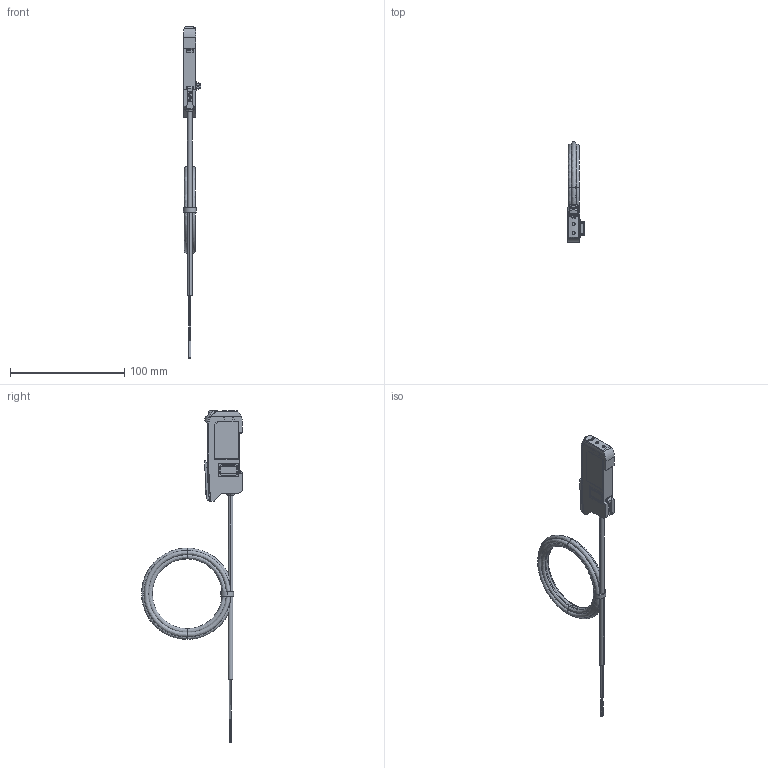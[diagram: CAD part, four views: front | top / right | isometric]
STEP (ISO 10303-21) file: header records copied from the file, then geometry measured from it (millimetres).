
FILE_DESCRIPTION (( 'STEP AP214' ), '1' );
FILE_NAME ('D4RF-TDS,-TS_220425.STEP', '2022-04-25T11:02:12', ( '' ), ( '' ), 'SwSTEP 2.0', 'SolidWorks 2021', '' );
FILE_SCHEMA (( 'AUTOMOTIVE_DESIGN' ));
Length unit declared in the file: millimetre
Products named in the file (3): 220425375; 220425361; D4RF-TDS,-TS_220425
Assembly tree (2 placements, depth 2):
  D4RF-TDS,-TS_220425
    220425375
    220425361
Bounding box: 14.95 x 88.4 x 291.15 mm (x, y, z)
Volume: 38737.5 mm3; surface area: 19301.4 mm2
Topology: 2 solids, 15 shells, 991 faces, 2522 edges, 1603 vertices
Faces by surface type: plane 463, cylinder 267, bspline 175, cone 65, torus 17, sphere 4
Entity records: 38000 total; most frequent: CARTESIAN_POINT 14938, ORIENTED_EDGE 4992, DIRECTION 3822, EDGE_CURVE 2496, VERTEX_POINT 1599, LINE 1328, VECTOR 1328, AXIS2_PLACEMENT_3D 1247
